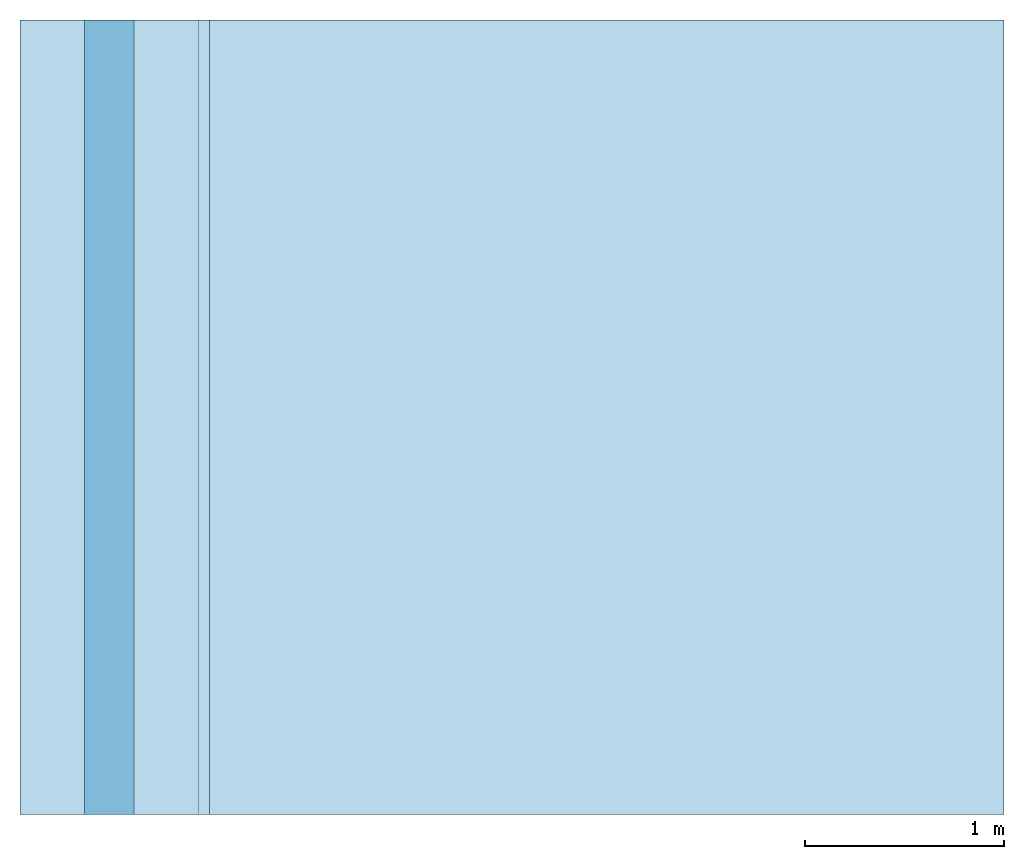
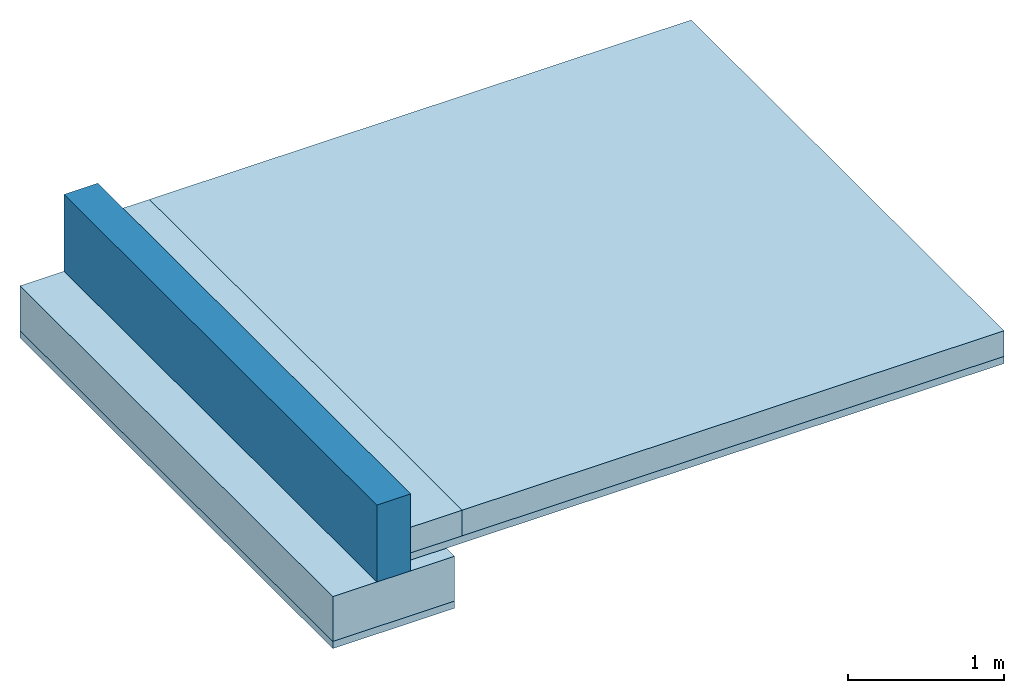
# One storey: 4 slabs, 1 footing, 1 wall.
"""IFC2X3 building model written with IfcOpenShell, lengths in millimetres."""

from ifc_helpers import new_model, entity, si_unit, converted_unit, derived_unit, direction, frame, frame_2d, origin, origin_2d_with_axis, place, context, subcontext, project, spatial, rectangle, extrude, material, layer, layer_set, layer_usage, type_object, element, save


model = new_model("IFC2X3")

# Units and contexts
model_context = context("Model", 3, precision=0.01, world=origin(), true_north=direction((6.12303176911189e-17, 1.0)))
body_context = subcontext(model_context, "Body", "Model", "MODEL_VIEW")
ifc_project = project(units=[si_unit("LENGTHUNIT", "METRE", prefix="MILLI"), si_unit("AREAUNIT", "SQUARE_METRE"), si_unit("VOLUMEUNIT", "CUBIC_METRE"), converted_unit("PLANEANGLEUNIT", "DEGREE", entity("IfcRatioMeasure", 0.0174532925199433), si_unit("PLANEANGLEUNIT", "RADIAN"), dimensions=[0, 0, 0, 0, 0, 0, 0]), si_unit("MASSUNIT", "GRAM", prefix="KILO"), derived_unit("MASSDENSITYUNIT", [(si_unit("MASSUNIT", "GRAM", prefix="KILO"), 1), (si_unit("LENGTHUNIT", "METRE"), -3)]), si_unit("TIMEUNIT", "SECOND"), si_unit("FREQUENCYUNIT", "HERTZ"), si_unit("THERMODYNAMICTEMPERATUREUNIT", "DEGREE_CELSIUS"), derived_unit("THERMALTRANSMITTANCEUNIT", [(si_unit("MASSUNIT", "GRAM", prefix="KILO"), 1), (si_unit("THERMODYNAMICTEMPERATUREUNIT", "KELVIN"), -1), (si_unit("TIMEUNIT", "SECOND"), -3)]), derived_unit("VOLUMETRICFLOWRATEUNIT", [(si_unit("LENGTHUNIT", "METRE"), 3), (si_unit("TIMEUNIT", "SECOND"), -1)]), si_unit("ELECTRICCURRENTUNIT", "AMPERE"), si_unit("ELECTRICVOLTAGEUNIT", "VOLT"), si_unit("POWERUNIT", "WATT"), si_unit("FORCEUNIT", "NEWTON", prefix="KILO"), si_unit("ILLUMINANCEUNIT", "LUX"), si_unit("LUMINOUSFLUXUNIT", "LUMEN"), si_unit("LUMINOUSINTENSITYUNIT", "CANDELA"), derived_unit("USERDEFINED", [(si_unit("MASSUNIT", "GRAM", prefix="KILO"), -1), (si_unit("LENGTHUNIT", "METRE"), -2), (si_unit("TIMEUNIT", "SECOND"), 3), (si_unit("LUMINOUSFLUXUNIT", "LUMEN"), 1)]), derived_unit("LINEARVELOCITYUNIT", [(si_unit("LENGTHUNIT", "METRE"), 1), (si_unit("TIMEUNIT", "SECOND"), -1)]), si_unit("PRESSUREUNIT", "PASCAL"), derived_unit("USERDEFINED", [(si_unit("LENGTHUNIT", "METRE"), -2), (si_unit("MASSUNIT", "GRAM", prefix="KILO"), 1), (si_unit("TIMEUNIT", "SECOND"), -2)])], contexts=[model_context])

# Site, building, storey
site_placement = place(None, origin())
site = spatial("IfcSite", under=ifc_project, at=site_placement, Name="Default", CompositionType="ELEMENT")
building_placement = place(site_placement, origin())
building = spatial("IfcBuilding", under=site, at=building_placement, CompositionType="ELEMENT")
storey_placement = place(building_placement, origin())
storey = spatial("IfcBuildingStorey", under=building, at=storey_placement, Name="Nivel 1", CompositionType="ELEMENT", Elevation=0.0)

# Footing
ifc_material_1 = material(Name="Placa")
footing_placement = place(storey_placement, origin())
element("IfcFooting", 1, at=footing_placement, inside=storey, material=ifc_material_1, Name="Cimentación de muro:ZapataCorrida", ObjectType="Cimentación de muro:ZapataCorrida", PredefinedType="STRIP_FOOTING", context=body_context, shape_type="SweptSolid", body=[
    extrude(rectangle(XDim=4000.0, YDim=900.0, at=frame_2d((1.13686837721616e-13, 5.40012479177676e-13), x_axis=(1.0, 0.0))), frame((-6604.95271651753, -1086.84289171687, -350.0), z_axis=(0.0, 0.0, 1.0), x_axis=(0.0, -1.0, 0.0)), (0.0, 0.0, 1.0), 350.0),
])

# Slabs
ifc_material_2 = material(Name="IM_Polipropileno_Geotextil_GeofimPP12515")
ifc_layer_1 = layer(ifc_material_2, 2.0)
ifc_material_3 = material(Name="IM_LaminaAsfaltica_Lamina_PolitaberCombi40 (LBM 40-FP)")
ifc_layer_2 = layer(ifc_material_3, 2.0)
ifc_layer_3 = layer(ifc_material_2, 2.0)
ifc_material_4 = material(Name="Hormigón de limpieza")
ifc_layer_4 = layer(ifc_material_4, 50.0)
ifc_layer_set_1 = layer_set([ifc_layer_1, ifc_layer_2, ifc_layer_3, ifc_layer_4], Name="Suelo:ProteccionContraRadon-Radon_Solera_S-RAD-4F")
ifc_layer_usage_1 = layer_usage(ifc_layer_set_1, "AXIS3", "POSITIVE", 0.0)
slab_1_placement = place(storey_placement, origin())
element("IfcSlab", 2, at=slab_1_placement, inside=storey, material=ifc_layer_usage_1, Name="Suelo:ProteccionContraRadon-Radon_Solera_S-RAD-4F", ObjectType="Suelo:ProteccionContraRadon-Radon_Solera_S-RAD-4F", PredefinedType="FLOOR", context=body_context, shape_type="SweptSolid", body=[
    extrude(rectangle(XDim=4000.0, YDim=899.999999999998, at=frame_2d((0.0, 5.40012479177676e-13), x_axis=(1.0, 0.0))), frame((-6604.95271651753, -1086.84289171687, -350.0), z_axis=(0.0, 0.0, -1.0), x_axis=(0.0, 1.0, 0.0)), (0.0, 0.0, 1.0), 56.0),
])
ifc_layer_5 = layer(ifc_material_1, 200.0)
ifc_layer_set_2 = layer_set([ifc_layer_5], Name="Suelo:Placa")
ifc_layer_usage_2 = layer_usage(ifc_layer_set_2, "AXIS3", "POSITIVE", 0.0)
slab_2_placement = place(storey_placement, origin())
element("IfcSlab", 3, at=slab_2_placement, inside=storey, material=ifc_layer_usage_2, Name="Suelo:Placa", ObjectType="Suelo:Placa", PredefinedType="FLOOR", context=body_context, shape_type="SweptSolid", body=[
    extrude(rectangle(XDim=4000.00000000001, YDim=380.0, at=origin_2d_with_axis()), frame((-6289.95271651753, -1086.84289171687, 340.0), z_axis=(0.0, 0.0, -1.0), x_axis=(0.0, 1.0, 0.0)), (0.0, 0.0, 1.0), 200.0),
])
ifc_layer_usage_3 = layer_usage(ifc_layer_set_2, "AXIS3", "POSITIVE", 0.0)
slab_3_placement = place(storey_placement, origin())
element("IfcSlab", 4, at=slab_3_placement, inside=storey, material=ifc_layer_usage_3, Name="Suelo:Placa", ObjectType="Suelo:Placa", PredefinedType="FLOOR", context=body_context, shape_type="SweptSolid", body=[
    extrude(rectangle(XDim=4000.00000000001, YDim=4000.0, at=origin_2d_with_axis()), frame((-4099.95271651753, -1086.84289171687, 340.0), z_axis=(0.0, 0.0, -1.0), x_axis=(0.0, 1.0, 0.0)), (0.0, 0.0, 1.0), 200.0),
])
ifc_layer_usage_4 = layer_usage(ifc_layer_set_1, "AXIS3", "POSITIVE", 0.0)
slab_4_placement = place(storey_placement, origin())
element("IfcSlab", 5, at=slab_4_placement, inside=storey, material=ifc_layer_usage_4, Name="Suelo:ProteccionContraRadon-Radon_Solera_S-RAD-4F", ObjectType="Suelo:ProteccionContraRadon-Radon_Solera_S-RAD-4F", PredefinedType="FLOOR", context=body_context, shape_type="SweptSolid", body=[
    extrude(rectangle(XDim=4000.00000000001, YDim=4380.0, at=origin_2d_with_axis()), frame((-4289.95271651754, -1086.84289171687, 140.0), z_axis=(0.0, 0.0, -1.0), x_axis=(0.0, 1.0, 0.0)), (0.0, 0.0, 1.0), 56.0),
])

# Wall
ifc_material_5 = material(Name="Soporte resistente")
ifc_layer_6 = layer(ifc_material_5, 250.0)
ifc_layer_set_3 = layer_set([ifc_layer_6], Name="Muro básico:Muro")
ifc_layer_usage_5 = layer_usage(ifc_layer_set_3, "AXIS2", "POSITIVE", -125.0)
wall_type = type_object("IfcWallType", Name="Muro básico:Muro", PredefinedType="STANDARD", material=ifc_layer_set_3)
wall_placement = place(storey_placement, frame((-6604.95271651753, 913.157108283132, 0.0), z_axis=(0.0, 0.0, 1.0), x_axis=(0.0, -1.0, 0.0)))
element("IfcWallStandardCase", 6, at=wall_placement, inside=storey, type_object=wall_type, material=ifc_layer_usage_5, Name="Muro básico:Muro", ObjectType="Muro básico:Muro", context=body_context, shape_type="SweptSolid", body=[
    extrude(rectangle(XDim=4000.0, YDim=249.999999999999, at=frame_2d((2000.0, 0.0), x_axis=(-1.0, 0.0))), origin(), (0.0, 0.0, 1.0), 600.0),
])

save(model, "model.ifc")
